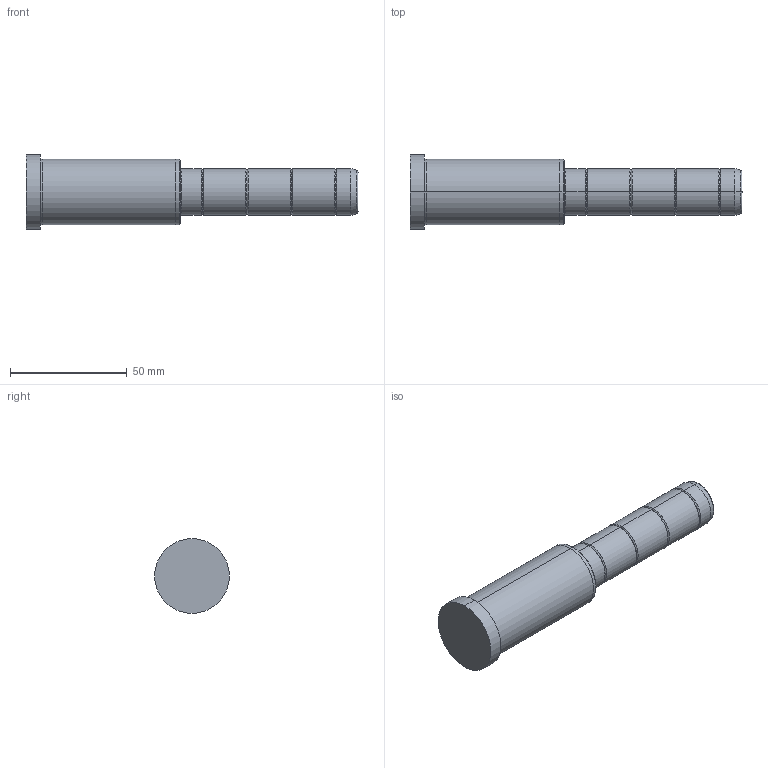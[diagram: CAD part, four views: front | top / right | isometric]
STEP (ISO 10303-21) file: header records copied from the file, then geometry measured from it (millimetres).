
FILE_DESCRIPTION( ( 'STEP AP203' ), '1' );
FILE_NAME( 'C:/Projects/D02 - 20x66x76.step', '2003-01-04T13:52:21', ( ' ' ), ( ' ' ), 'XStep 1.0', ' ', ' ' );
FILE_SCHEMA( ( 'CONFIG_CONTROL_DESIGN' ) );
Length unit declared in the file: metre
Products named in the file (1): 1
Bounding box: 142 x 32 x 32 mm (x, y, z)
Volume: 65512.7 mm3; surface area: 12298.6 mm2
Topology: 1 solids, 1 shells, 48 faces, 94 edges, 52 vertices
Faces by surface type: bspline 26, revolution 22
Entity records: 1523 total; most frequent: CARTESIAN_POINT 617, ORIENTED_EDGE 188, DIRECTION 150, EDGE_CURVE 94, AXIS2_PLACEMENT_3D 53, EDGE_LOOP 52, VERTEX_POINT 52, CIRCLE 52
